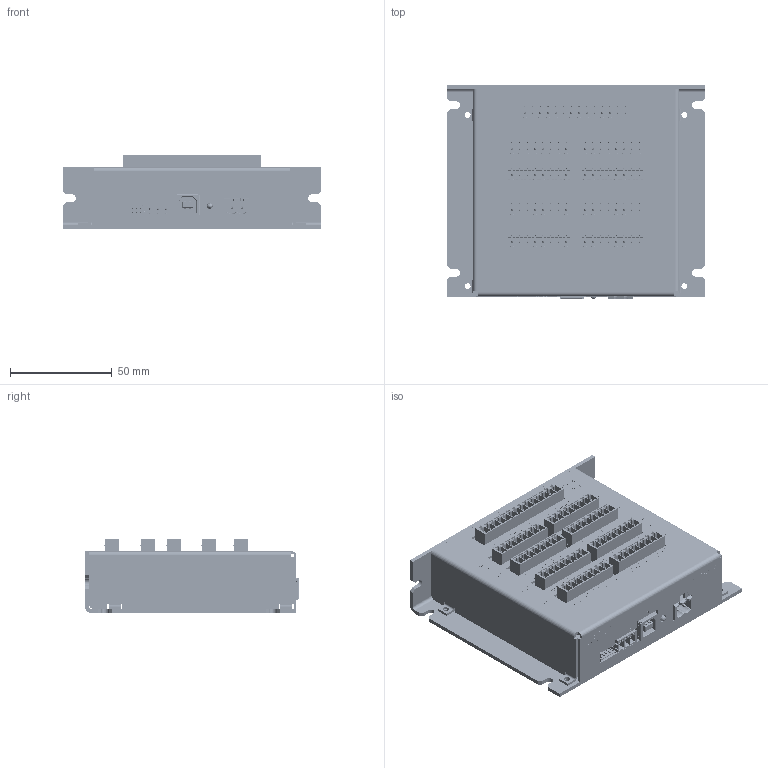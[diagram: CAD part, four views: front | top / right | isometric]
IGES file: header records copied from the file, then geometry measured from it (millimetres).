
Start section: SolidWorks IGES file using analytic representation for surfaces
Global section: file name: C:\Users\IEUser\Documents\Christine folder\Arcus\Project #26 PMX Drawings\PMX-4EX-SA-TBS\PMX-4EX-SA 3D Drawing\PMX-4EX-SA\PMX-4EX-SA-TBS.IGS; native system: SolidWorks 2008; preprocessor: SolidWorks 2008; author: IEUser; date: 140604.231024; units: inch
Bounding box: 127 x 105.41 x 36.71 mm (x, y, z)
Surface area: 135219.3 mm2 (no closed solid volume)
Topology: 0 solids, 0 shells, 10750 faces, 78778 edges, 78641 vertices
Faces by surface type: bspline 9578, revolution 1172
